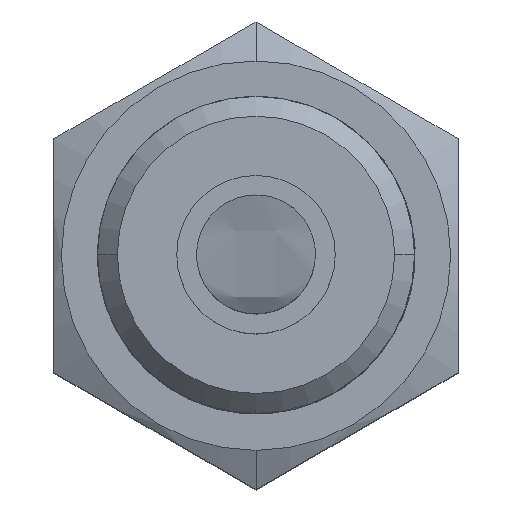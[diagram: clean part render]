
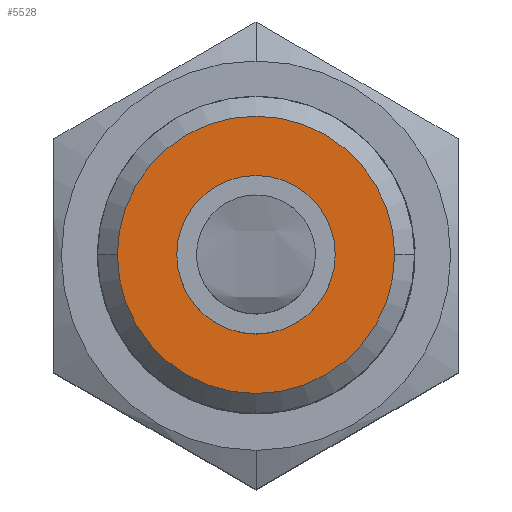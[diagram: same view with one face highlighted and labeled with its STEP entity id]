
A CAD part, top view. The second image highlights one B-rep face of the part: STEP entity #5528.
In plain terms, the highlighted planar face has unit normal (0, 0, 1).
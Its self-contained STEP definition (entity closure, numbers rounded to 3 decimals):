
#3066=CARTESIAN_POINT('',(0.,0.,30.));
#3067=DIRECTION('',(0.,0.,1.));
#3068=DIRECTION('',(1.,0.,0.));
#3069=AXIS2_PLACEMENT_3D('',#3066,#3067,#3068);
#3071=CARTESIAN_POINT('',(0.,0.,30.));
#3072=DIRECTION('',(0.,0.,1.));
#3073=DIRECTION('',(-1.,0.,0.));
#3074=AXIS2_PLACEMENT_3D('',#3071,#3072,#3073);
#3076=CARTESIAN_POINT('',(0.,0.,30.));
#3077=DIRECTION('',(0.,0.,1.));
#3078=DIRECTION('',(1.,0.,0.));
#3079=AXIS2_PLACEMENT_3D('',#3076,#3077,#3078);
#3081=CARTESIAN_POINT('',(0.,0.,30.));
#3082=DIRECTION('',(0.,0.,1.));
#3083=DIRECTION('',(-1.,0.,0.));
#3084=AXIS2_PLACEMENT_3D('',#3081,#3082,#3083);
#3926=CARTESIAN_POINT('',(2.,0.,30.));
#3927=CARTESIAN_POINT('',(-2.,0.,30.));
#3928=VERTEX_POINT('',#3926);
#3929=VERTEX_POINT('',#3927);
#3934=CARTESIAN_POINT('',(-3.5,0.,
30.));
#3935=VERTEX_POINT('',#3934);
#3936=CARTESIAN_POINT('',(3.5,0.,30.));
#3937=VERTEX_POINT('',#3936);
#5513=CARTESIAN_POINT('',(0.,0.,30.));
#5514=DIRECTION('',(0.,0.,1.));
#5515=DIRECTION('',(1.,0.,0.));
#5516=AXIS2_PLACEMENT_3D('',#5513,#5514,#5515);
#5517=PLANE('',#5516);
#5518=ORIENTED_EDGE('',*,*,#5492,.F.);
#5519=ORIENTED_EDGE('',*,*,#5506,.F.);
#5520=EDGE_LOOP('',(#5518,#5519));
#5521=FACE_OUTER_BOUND('',#5520,.F.);
#5523=ORIENTED_EDGE('',*,*,#5522,.T.);
#5525=ORIENTED_EDGE('',*,*,#5524,.T.);
#5526=EDGE_LOOP('',(#5523,#5525));
#5527=FACE_BOUND('',#5526,.F.);
#3070=CIRCLE('',#3069,2.);
#3075=CIRCLE('',#3074,2.);
#3080=CIRCLE('',#3079,3.5);
#3085=CIRCLE('',#3084,3.5);
#5492=EDGE_CURVE('',#3937,#3935,#3080,.T.);
#5506=EDGE_CURVE('',#3935,#3937,#3085,.T.);
#5522=EDGE_CURVE('',#3928,#3929,#3070,.T.);
#5524=EDGE_CURVE('',#3929,#3928,#3075,.T.);
#5528=ADVANCED_FACE('',(#5521,#5527),#5517,.T.);
